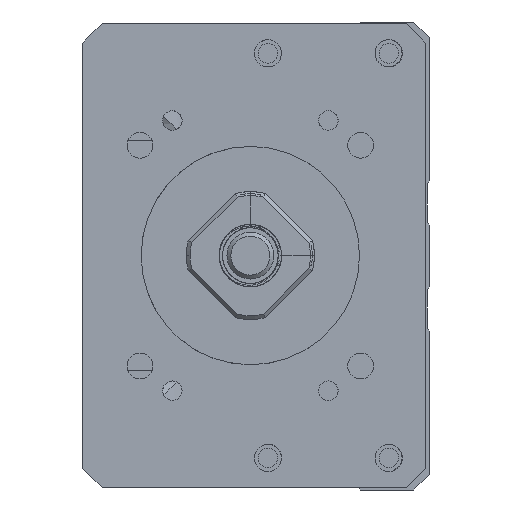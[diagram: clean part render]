
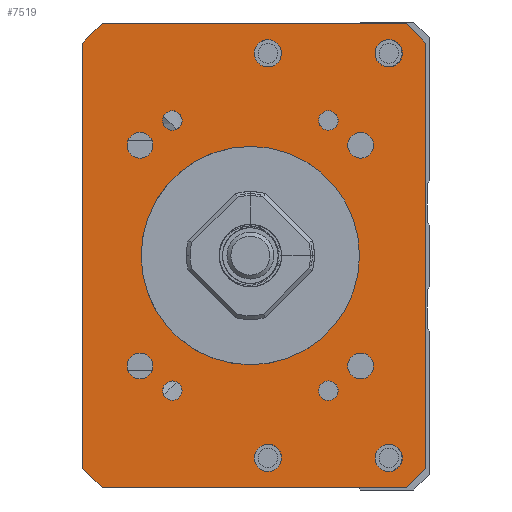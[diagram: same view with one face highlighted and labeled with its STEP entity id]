
A CAD part, left-side view. The second image highlights one B-rep face of the part: STEP entity #7519.
In plain terms, the highlighted planar face has unit normal (-1, 0, 0).
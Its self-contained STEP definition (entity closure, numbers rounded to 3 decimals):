
#4566=CIRCLE('',#14850,14.);
#4575=CIRCLE('',#14861,1.65);
#4576=CIRCLE('',#14862,1.65);
#4577=CIRCLE('',#14863,1.65);
#4578=CIRCLE('',#14864,1.65);
#4579=CIRCLE('',#14865,1.25);
#4580=CIRCLE('',#14866,1.75);
#4581=CIRCLE('',#14867,1.25);
#4582=CIRCLE('',#14868,1.75);
#4583=CIRCLE('',#14869,1.25);
#4584=CIRCLE('',#14870,1.75);
#4585=CIRCLE('',#14871,1.75);
#4586=CIRCLE('',#14872,1.25);
#5018=PLANE('',#14873);
#5910=LINE('',#19309,#6723);
#5912=LINE('',#19333,#6725);
#5913=LINE('',#19335,#6726);
#5914=LINE('',#19337,#6727);
#5915=LINE('',#19339,#6728);
#5916=LINE('',#19341,#6729);
#5917=LINE('',#19343,#6730);
#5918=LINE('',#19345,#6731);
#6723=VECTOR('',#16364,1.);
#6725=VECTOR('',#16388,1.);
#6726=VECTOR('',#16389,1.);
#6727=VECTOR('',#16390,1.);
#6728=VECTOR('',#16391,1.);
#6729=VECTOR('',#16392,1.);
#6730=VECTOR('',#16393,1.);
#6731=VECTOR('',#16394,1.);
#7519=ADVANCED_FACE('',(#8288,#8289,#8290,#8291,#8292,#8293,#8294,#8295,
#8296,#8297,#8298,#8299,#8300,#8301),#5018,.F.);
#8288=FACE_BOUND('',#8819,.T.);
#8289=FACE_BOUND('',#8820,.T.);
#8290=FACE_BOUND('',#8821,.T.);
#8291=FACE_BOUND('',#8822,.T.);
#8292=FACE_BOUND('',#8823,.T.);
#8293=FACE_BOUND('',#8824,.T.);
#8294=FACE_BOUND('',#8825,.T.);
#8295=FACE_BOUND('',#8826,.T.);
#8296=FACE_BOUND('',#8827,.T.);
#8297=FACE_BOUND('',#8828,.T.);
#8298=FACE_BOUND('',#8829,.T.);
#8299=FACE_BOUND('',#8830,.T.);
#8300=FACE_BOUND('',#8831,.T.);
#8301=FACE_BOUND('',#8832,.T.);
#8819=EDGE_LOOP('',(#10140));
#8820=EDGE_LOOP('',(#10141));
#8821=EDGE_LOOP('',(#10142));
#8822=EDGE_LOOP('',(#10143));
#8823=EDGE_LOOP('',(#10144));
#8824=EDGE_LOOP('',(#10145));
#8825=EDGE_LOOP('',(#10146));
#8826=EDGE_LOOP('',(#10147));
#8827=EDGE_LOOP('',(#10148));
#8828=EDGE_LOOP('',(#10149,#10150,#10151,#10152,#10153,#10154,#10155,#10156));
#8829=EDGE_LOOP('',(#10157));
#8830=EDGE_LOOP('',(#10158));
#8831=EDGE_LOOP('',(#10159));
#8832=EDGE_LOOP('',(#10160));
#10140=ORIENTED_EDGE('',*,*,#13481,.F.);
#10141=ORIENTED_EDGE('',*,*,#13482,.F.);
#10142=ORIENTED_EDGE('',*,*,#13483,.F.);
#10143=ORIENTED_EDGE('',*,*,#13484,.F.);
#10144=ORIENTED_EDGE('',*,*,#13485,.F.);
#10145=ORIENTED_EDGE('',*,*,#13486,.T.);
#10146=ORIENTED_EDGE('',*,*,#13487,.F.);
#10147=ORIENTED_EDGE('',*,*,#13488,.F.);
#10148=ORIENTED_EDGE('',*,*,#13489,.F.);
#10149=ORIENTED_EDGE('',*,*,#13478,.T.);
#10150=ORIENTED_EDGE('',*,*,#13490,.T.);
#10151=ORIENTED_EDGE('',*,*,#13491,.F.);
#10152=ORIENTED_EDGE('',*,*,#13492,.T.);
#10153=ORIENTED_EDGE('',*,*,#13493,.F.);
#10154=ORIENTED_EDGE('',*,*,#13494,.T.);
#10155=ORIENTED_EDGE('',*,*,#13495,.T.);
#10156=ORIENTED_EDGE('',*,*,#13496,.T.);
#10157=ORIENTED_EDGE('',*,*,#13497,.F.);
#10158=ORIENTED_EDGE('',*,*,#13498,.F.);
#10159=ORIENTED_EDGE('',*,*,#13499,.F.);
#10160=ORIENTED_EDGE('',*,*,#13458,.F.);
#12406=VERTEX_POINT('',#19232);
#12426=VERTEX_POINT('',#19308);
#12427=VERTEX_POINT('',#19310);
#12429=VERTEX_POINT('',#19316);
#12430=VERTEX_POINT('',#19318);
#12431=VERTEX_POINT('',#19320);
#12432=VERTEX_POINT('',#19322);
#12433=VERTEX_POINT('',#19324);
#12434=VERTEX_POINT('',#19326);
#12435=VERTEX_POINT('',#19328);
#12436=VERTEX_POINT('',#19330);
#12437=VERTEX_POINT('',#19332);
#12438=VERTEX_POINT('',#19334);
#12439=VERTEX_POINT('',#19336);
#12440=VERTEX_POINT('',#19338);
#12441=VERTEX_POINT('',#19340);
#12442=VERTEX_POINT('',#19342);
#12443=VERTEX_POINT('',#19344);
#12444=VERTEX_POINT('',#19347);
#12445=VERTEX_POINT('',#19349);
#12446=VERTEX_POINT('',#19351);
#13458=EDGE_CURVE('',#12406,#12406,#4566,.T.);
#13478=EDGE_CURVE('',#12427,#12426,#5910,.T.);
#13481=EDGE_CURVE('',#12429,#12429,#4575,.T.);
#13482=EDGE_CURVE('',#12430,#12430,#4576,.T.);
#13483=EDGE_CURVE('',#12431,#12431,#4577,.T.);
#13484=EDGE_CURVE('',#12432,#12432,#4578,.T.);
#13485=EDGE_CURVE('',#12433,#12433,#4579,.T.);
#13486=EDGE_CURVE('',#12434,#12434,#4580,.T.);
#13487=EDGE_CURVE('',#12435,#12435,#4581,.T.);
#13488=EDGE_CURVE('',#12436,#12436,#4582,.T.);
#13489=EDGE_CURVE('',#12437,#12437,#4583,.T.);
#13490=EDGE_CURVE('',#12426,#12438,#5912,.T.);
#13491=EDGE_CURVE('',#12439,#12438,#5913,.T.);
#13492=EDGE_CURVE('',#12439,#12440,#5914,.T.);
#13493=EDGE_CURVE('',#12441,#12440,#5915,.T.);
#13494=EDGE_CURVE('',#12441,#12442,#5916,.T.);
#13495=EDGE_CURVE('',#12442,#12443,#5917,.T.);
#13496=EDGE_CURVE('',#12443,#12427,#5918,.T.);
#13497=EDGE_CURVE('',#12444,#12444,#4584,.T.);
#13498=EDGE_CURVE('',#12445,#12445,#4585,.T.);
#13499=EDGE_CURVE('',#12446,#12446,#4586,.T.);
#14850=AXIS2_PLACEMENT_3D('',#19231,#16338,#16339);
#14861=AXIS2_PLACEMENT_3D('',#19315,#16370,#16371);
#14862=AXIS2_PLACEMENT_3D('',#19317,#16372,#16373);
#14863=AXIS2_PLACEMENT_3D('',#19319,#16374,#16375);
#14864=AXIS2_PLACEMENT_3D('',#19321,#16376,#16377);
#14865=AXIS2_PLACEMENT_3D('',#19323,#16378,#16379);
#14866=AXIS2_PLACEMENT_3D('',#19325,#16380,#16381);
#14867=AXIS2_PLACEMENT_3D('',#19327,#16382,#16383);
#14868=AXIS2_PLACEMENT_3D('',#19329,#16384,#16385);
#14869=AXIS2_PLACEMENT_3D('',#19331,#16386,#16387);
#14870=AXIS2_PLACEMENT_3D('',#19346,#16395,#16396);
#14871=AXIS2_PLACEMENT_3D('',#19348,#16397,#16398);
#14872=AXIS2_PLACEMENT_3D('',#19350,#16399,#16400);
#14873=AXIS2_PLACEMENT_3D('',#19352,#16401,#16402);
#16338=DIRECTION('',(-1.,0.,0.));
#16339=DIRECTION('',(0.,1.,0.));
#16364=DIRECTION('',(0.,0.,-1.));
#16370=DIRECTION('',(-1.,0.,0.));
#16371=DIRECTION('',(0.,0.,1.));
#16372=DIRECTION('',(-1.,0.,0.));
#16373=DIRECTION('',(0.,0.,1.));
#16374=DIRECTION('',(-1.,0.,0.));
#16375=DIRECTION('',(0.,0.,1.));
#16376=DIRECTION('',(-1.,0.,0.));
#16377=DIRECTION('',(0.,0.,1.));
#16378=DIRECTION('',(-1.,0.,0.));
#16379=DIRECTION('',(0.,1.,0.));
#16380=DIRECTION('',(1.,0.,0.));
#16381=DIRECTION('',(0.,0.,1.));
#16382=DIRECTION('',(-1.,0.,0.));
#16383=DIRECTION('',(0.,1.,0.));
#16384=DIRECTION('',(-1.,0.,0.));
#16385=DIRECTION('',(0.,0.,1.));
#16386=DIRECTION('',(-1.,0.,0.));
#16387=DIRECTION('',(0.,1.,0.));
#16388=DIRECTION('',(0.,-0.707,-0.707));
#16389=DIRECTION('',(0.,1.,0.));
#16390=DIRECTION('',(0.,-0.707,0.707));
#16391=DIRECTION('',(0.,0.,-1.));
#16392=DIRECTION('',(0.,0.707,0.707));
#16393=DIRECTION('',(0.,1.,0.));
#16394=DIRECTION('',(0.,0.707,-0.707));
#16395=DIRECTION('',(-1.,0.,0.));
#16396=DIRECTION('',(0.,0.,1.));
#16397=DIRECTION('',(-1.,0.,0.));
#16398=DIRECTION('',(0.,0.,1.));
#16399=DIRECTION('',(-1.,0.,0.));
#16400=DIRECTION('',(0.,1.,0.));
#16401=DIRECTION('',(1.,0.,0.));
#16402=DIRECTION('',(0.,-1.,0.));
#19231=CARTESIAN_POINT('',(-211.,0.,-100.));
#19232=CARTESIAN_POINT('',(-211.,14.,-100.));
#19308=CARTESIAN_POINT('',(-211.,21.499,-127.25));
#19309=CARTESIAN_POINT('',(-211.,21.499,-70.25));
#19310=CARTESIAN_POINT('',(-211.,21.499,-72.75));
#19315=CARTESIAN_POINT('',(-211.,14.142,-85.858));
#19316=CARTESIAN_POINT('',(-211.,14.142,-84.208));
#19317=CARTESIAN_POINT('',(-211.,-14.142,-85.858));
#19318=CARTESIAN_POINT('',(-211.,-14.142,-84.208));
#19319=CARTESIAN_POINT('',(-211.,14.142,-114.142));
#19320=CARTESIAN_POINT('',(-211.,14.142,-112.492));
#19321=CARTESIAN_POINT('',(-211.,-14.142,-114.142));
#19322=CARTESIAN_POINT('',(-211.,-14.142,-112.492));
#19323=CARTESIAN_POINT('',(-211.,-10.,-117.321));
#19324=CARTESIAN_POINT('',(-211.,-8.75,-117.321));
#19325=CARTESIAN_POINT('',(-211.,-2.25,-125.936));
#19326=CARTESIAN_POINT('',(-211.,-2.25,-124.186));
#19327=CARTESIAN_POINT('',(-211.,10.,-82.679));
#19328=CARTESIAN_POINT('',(-211.,11.25,-82.679));
#19329=CARTESIAN_POINT('',(-211.,-2.25,-74.064));
#19330=CARTESIAN_POINT('',(-211.,-2.25,-72.314));
#19331=CARTESIAN_POINT('',(-211.,10.,-117.321));
#19332=CARTESIAN_POINT('',(-211.,11.25,-117.321));
#19333=CARTESIAN_POINT('',(-211.,18.999,-129.75));
#19334=CARTESIAN_POINT('',(-211.,18.999,-129.75));
#19335=CARTESIAN_POINT('',(-211.,-22.501,-129.75));
#19336=CARTESIAN_POINT('',(-211.,-20.001,-129.75));
#19337=CARTESIAN_POINT('',(-211.,-22.501,-127.25));
#19338=CARTESIAN_POINT('',(-211.,-22.501,-127.25));
#19339=CARTESIAN_POINT('',(-211.,-22.501,-70.25));
#19340=CARTESIAN_POINT('',(-211.,-22.501,-72.75));
#19341=CARTESIAN_POINT('',(-211.,-22.501,-72.75));
#19342=CARTESIAN_POINT('',(-211.,-20.001,-70.25));
#19343=CARTESIAN_POINT('',(-211.,-22.501,-70.25));
#19344=CARTESIAN_POINT('',(-211.,18.999,-70.25));
#19345=CARTESIAN_POINT('',(-211.,18.999,-70.25));
#19346=CARTESIAN_POINT('',(-211.,-17.75,-74.064));
#19347=CARTESIAN_POINT('',(-211.,-17.75,-72.314));
#19348=CARTESIAN_POINT('',(-211.,-17.75,-125.936));
#19349=CARTESIAN_POINT('',(-211.,-17.75,-124.186));
#19350=CARTESIAN_POINT('',(-211.,-10.,-82.679));
#19351=CARTESIAN_POINT('',(-211.,-8.75,-82.679));
#19352=CARTESIAN_POINT('',(-211.,-22.501,-70.25));
